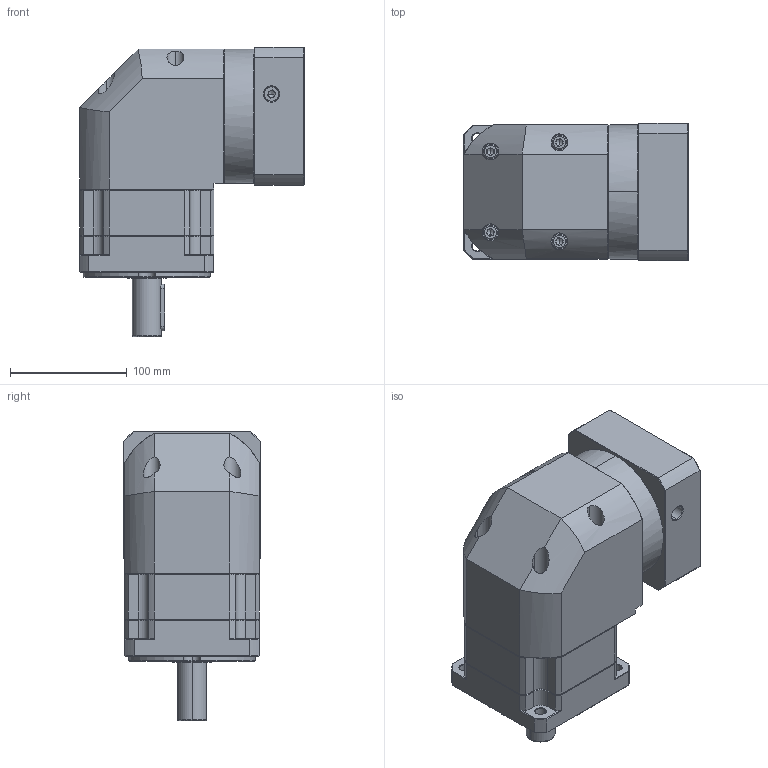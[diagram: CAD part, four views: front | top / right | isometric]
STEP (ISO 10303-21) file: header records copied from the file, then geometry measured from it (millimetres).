
FILE_DESCRIPTION (( 'STEP AP214' ), '1' );
FILE_NAME ('ZBR115A-D25-L1-P2-19-95-130-M8.step', '2023-08-26T12:30:35', ( '' ), ( '' ), 'SwSTEP 2.0', 'SolidWorks 2016', '' );
FILE_SCHEMA (( 'AUTOMOTIVE_DESIGN' ));
Length unit declared in the file: millimetre
Products named in the file (1): ZBR115A-D25-L1-P2-19-95-130-M8
Bounding box: 192.4 x 118 x 248 mm (x, y, z)
Volume: 2961690.8 mm3; surface area: 246294.9 mm2
Topology: 6 solids, 6 shells, 2378 faces, 6238 edges, 3964 vertices
Faces by surface type: plane 1139, cylinder 439, bspline 424, cone 368, torus 8
Entity records: 127991 total; most frequent: CARTESIAN_POINT 46859, ORIENTED_EDGE 12416, DIRECTION 9789, EDGE_CURVE 6208, LINE 3989, VECTOR 3989, VERTEX_POINT 3964, AXIS2_PLACEMENT_3D 2900
